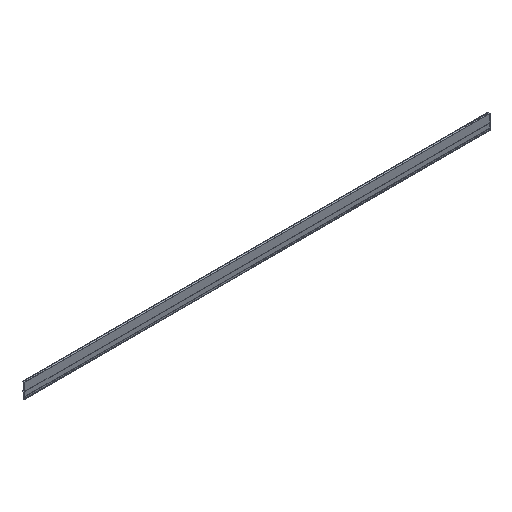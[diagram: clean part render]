
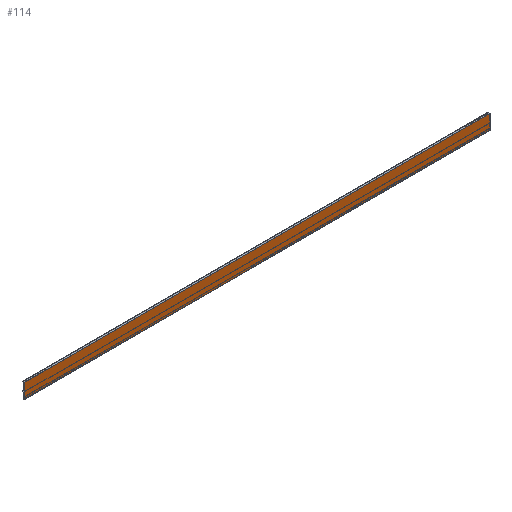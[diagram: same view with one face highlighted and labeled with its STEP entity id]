
A CAD part, isometric view. The second image highlights one B-rep face of the part: STEP entity #114.
In plain terms, the highlighted planar face has unit normal (0, -1, 0).
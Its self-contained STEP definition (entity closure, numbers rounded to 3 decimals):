
#114=ADVANCED_FACE('',(#278),#279,.T.);
#278=FACE_OUTER_BOUND('',#493,.T.);
#279=PLANE('',#494);
#493=EDGE_LOOP('',(#787,#788,#789,#790));
#494=AXIS2_PLACEMENT_3D('',#791,#792,#793);
#787=ORIENTED_EDGE('',*,*,#1376,.T.);
#788=ORIENTED_EDGE('',*,*,#1377,.F.);
#789=ORIENTED_EDGE('',*,*,#1348,.F.);
#790=ORIENTED_EDGE('',*,*,#1378,.T.);
#791=CARTESIAN_POINT('',(0.0,-11.5,0.0));
#792=DIRECTION('',(0.0,-1.0,0.0));
#793=DIRECTION('',(0.0,0.0,-1.0));
#1348=EDGE_CURVE('',#1623,#1625,#1626,.T.);
#1376=EDGE_CURVE('',#1674,#1675,#1676,.T.);
#1377=EDGE_CURVE('',#1625,#1675,#1677,.T.);
#1378=EDGE_CURVE('',#1623,#1674,#1678,.T.);
#1623=VERTEX_POINT('',#2027);
#1625=VERTEX_POINT('',#2030);
#1626=LINE('',#2031,#2032);
#1674=VERTEX_POINT('',#2104);
#1675=VERTEX_POINT('',#2105);
#1676=LINE('',#2106,#2107);
#1677=LINE('',#2108,#2109);
#1678=LINE('',#2110,#2111);
#2027=CARTESIAN_POINT('',(0.0,-11.5,-79.5));
#2030=CARTESIAN_POINT('',(0.0,-11.5,0.0));
#2031=CARTESIAN_POINT('',(0.0,-11.5,-61.0));
#2032=VECTOR('',#2483,1.0);
#2104=CARTESIAN_POINT('',(2500.0,-11.5,-79.5));
#2105=CARTESIAN_POINT('',(2500.0,-11.5,0.0));
#2106=CARTESIAN_POINT('',(2500.0,-11.5,-15.25));
#2107=VECTOR('',#2508,1.0);
#2108=CARTESIAN_POINT('',(0.0,-11.5,0.0));
#2109=VECTOR('',#2509,1.0);
#2110=CARTESIAN_POINT('',(0.0,-11.5,-79.5));
#2111=VECTOR('',#2510,1.0);
#2483=DIRECTION('',(0.0,0.0,1.0));
#2508=DIRECTION('',(0.0,0.0,1.0));
#2509=DIRECTION('',(1.0,0.0,0.0));
#2510=DIRECTION('',(1.0,0.0,0.0));
